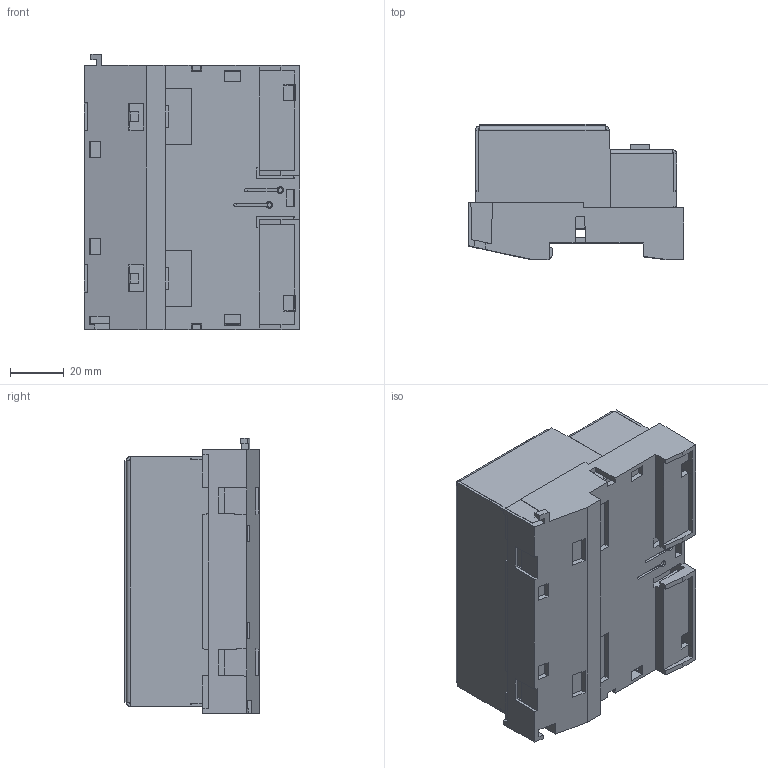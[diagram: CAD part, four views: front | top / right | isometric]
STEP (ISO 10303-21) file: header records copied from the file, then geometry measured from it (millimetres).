
FILE_DESCRIPTION (( 'STEP AP214' ), '1' );
FILE_NAME ('16-023-041 VSV041.STEP', '2016-02-04T08:42:40', ( 'SIGMATEK GmbH & Co KG' ), ( 'SIGMATEK GmbH & Co KG' ), 'SwSTEP 2.0', 'SolidWorks 2015', '' );
FILE_SCHEMA (( 'AUTOMOTIVE_DESIGN' ));
Length unit declared in the file: millimetre
Products named in the file (1): 16-023-041 VSV041
Bounding box: 79.98 x 50 x 102.1 mm (x, y, z)
Volume: 69066.1 mm3; surface area: 96101.7 mm2
Topology: 11 solids, 13 shells, 1088 faces, 2960 edges, 1918 vertices
Faces by surface type: plane 880, cylinder 176, cone 32
Full cylindrical faces by diameter (mm): 0.2 x1
Entity records: 46083 total; most frequent: CARTESIAN_POINT 6372, ORIENTED_EDGE 5912, DIRECTION 5371, EDGE_CURVE 2956, LINE 2521, VECTOR 2521, VERTEX_POINT 1916, AXIS2_PLACEMENT_3D 1425
